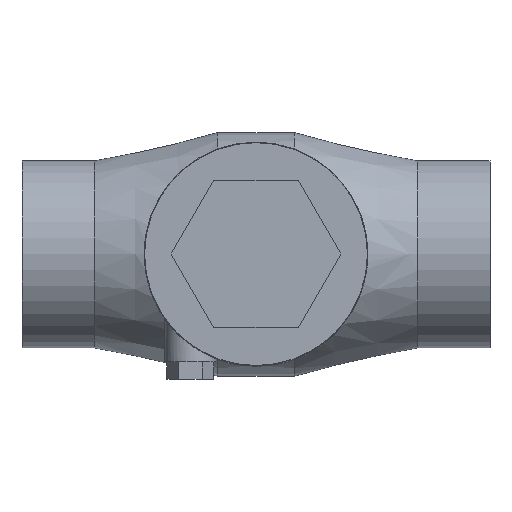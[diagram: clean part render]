
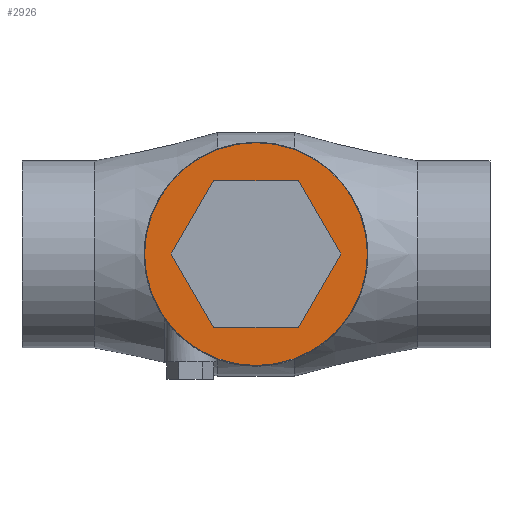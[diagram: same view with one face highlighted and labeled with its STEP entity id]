
A CAD part, top view. The second image highlights one B-rep face of the part: STEP entity #2926.
In plain terms, the highlighted planar face has unit normal (0, 0, 1).
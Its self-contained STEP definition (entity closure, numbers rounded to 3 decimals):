
#32 = PLANE('',#33);
#33 = AXIS2_PLACEMENT_3D('',#34,#35,#36);
#34 = CARTESIAN_POINT('',(2.265,-0.711,1.88));
#35 = DIRECTION('',(0.,-1.,0.));
#36 = DIRECTION('',(1.,0.,0.));
#57 = VERTEX_POINT('',#58);
#58 = CARTESIAN_POINT('',(1.855,-0.711,1.88));
#72 = PLANE('',#73);
#73 = AXIS2_PLACEMENT_3D('',#74,#75,#76);
#74 = CARTESIAN_POINT('',(1.649,-0.356,1.88));
#75 = DIRECTION('',(-0.866,-0.5,0.));
#76 = DIRECTION('',(0.5,-0.866,0.));
#84 = EDGE_CURVE('',#85,#57,#87,.T.);
#85 = VERTEX_POINT('',#86);
#86 = CARTESIAN_POINT('',(2.675,-0.711,1.88));
#87 = SURFACE_CURVE('',#88,(#92,#99),.PCURVE_S1.);
#88 = LINE('',#89,#90);
#89 = CARTESIAN_POINT('',(2.265,-0.711,1.88));
#90 = VECTOR('',#91,1.);
#91 = DIRECTION('',(-1.,0.,0.));
#92 = PCURVE('',#32,#93);
#93 = DEFINITIONAL_REPRESENTATION('',(#94),#98);
#94 = LINE('',#95,#96);
#95 = CARTESIAN_POINT('',(0.,0.));
#96 = VECTOR('',#97,1.);
#97 = DIRECTION('',(-1.,0.));
#98 = ( GEOMETRIC_REPRESENTATION_CONTEXT(2) 
PARAMETRIC_REPRESENTATION_CONTEXT() REPRESENTATION_CONTEXT('2D SPACE',''
  ) );
#99 = PCURVE('',#100,#105);
#100 = PLANE('',#101);
#101 = AXIS2_PLACEMENT_3D('',#102,#103,#104);
#102 = CARTESIAN_POINT('',(2.265,0.,1.88));
#103 = DIRECTION('',(0.,0.,1.));
#104 = DIRECTION('',(1.,0.,-0.));
#105 = DEFINITIONAL_REPRESENTATION('',(#106),#110);
#106 = LINE('',#107,#108);
#107 = CARTESIAN_POINT('',(0.,-0.711));
#108 = VECTOR('',#109,1.);
#109 = DIRECTION('',(-1.,0.));
#110 = ( GEOMETRIC_REPRESENTATION_CONTEXT(2) 
PARAMETRIC_REPRESENTATION_CONTEXT() REPRESENTATION_CONTEXT('2D SPACE',''
  ) );
#126 = PLANE('',#127);
#127 = AXIS2_PLACEMENT_3D('',#128,#129,#130);
#128 = CARTESIAN_POINT('',(2.881,-0.356,1.88));
#129 = DIRECTION('',(0.866,-0.5,0.));
#130 = DIRECTION('',(0.5,0.866,0.));
#165 = VERTEX_POINT('',#166);
#166 = CARTESIAN_POINT('',(1.444,0.,1.88));
#180 = PLANE('',#181);
#181 = AXIS2_PLACEMENT_3D('',#182,#183,#184);
#182 = CARTESIAN_POINT('',(1.649,0.356,1.88));
#183 = DIRECTION('',(-0.866,0.5,0.));
#184 = DIRECTION('',(-0.5,-0.866,0.));
#192 = EDGE_CURVE('',#57,#165,#193,.T.);
#193 = SURFACE_CURVE('',#194,(#198,#205),.PCURVE_S1.);
#194 = LINE('',#195,#196);
#195 = CARTESIAN_POINT('',(1.649,-0.356,1.88));
#196 = VECTOR('',#197,1.);
#197 = DIRECTION('',(-0.5,0.866,0.));
#198 = PCURVE('',#72,#199);
#199 = DEFINITIONAL_REPRESENTATION('',(#200),#204);
#200 = LINE('',#201,#202);
#201 = CARTESIAN_POINT('',(0.,0.));
#202 = VECTOR('',#203,1.);
#203 = DIRECTION('',(-1.,0.));
#204 = ( GEOMETRIC_REPRESENTATION_CONTEXT(2) 
PARAMETRIC_REPRESENTATION_CONTEXT() REPRESENTATION_CONTEXT('2D SPACE',''
  ) );
#205 = PCURVE('',#100,#206);
#206 = DEFINITIONAL_REPRESENTATION('',(#207),#211);
#207 = LINE('',#208,#209);
#208 = CARTESIAN_POINT('',(-0.616,-0.356));
#209 = VECTOR('',#210,1.);
#210 = DIRECTION('',(-0.5,0.866));
#211 = ( GEOMETRIC_REPRESENTATION_CONTEXT(2) 
PARAMETRIC_REPRESENTATION_CONTEXT() REPRESENTATION_CONTEXT('2D SPACE',''
  ) );
#241 = VERTEX_POINT('',#242);
#242 = CARTESIAN_POINT('',(1.855,0.711,1.88));
#256 = PLANE('',#257);
#257 = AXIS2_PLACEMENT_3D('',#258,#259,#260);
#258 = CARTESIAN_POINT('',(2.265,0.711,1.88));
#259 = DIRECTION('',(0.,1.,0.));
#260 = DIRECTION('',(-1.,0.,0.));
#268 = EDGE_CURVE('',#165,#241,#269,.T.);
#269 = SURFACE_CURVE('',#270,(#274,#281),.PCURVE_S1.);
#270 = LINE('',#271,#272);
#271 = CARTESIAN_POINT('',(1.649,0.356,1.88));
#272 = VECTOR('',#273,1.);
#273 = DIRECTION('',(0.5,0.866,0.));
#274 = PCURVE('',#180,#275);
#275 = DEFINITIONAL_REPRESENTATION('',(#276),#280);
#276 = LINE('',#277,#278);
#277 = CARTESIAN_POINT('',(0.,0.));
#278 = VECTOR('',#279,1.);
#279 = DIRECTION('',(-1.,0.));
#280 = ( GEOMETRIC_REPRESENTATION_CONTEXT(2) 
PARAMETRIC_REPRESENTATION_CONTEXT() REPRESENTATION_CONTEXT('2D SPACE',''
  ) );
#281 = PCURVE('',#100,#282);
#282 = DEFINITIONAL_REPRESENTATION('',(#283),#287);
#283 = LINE('',#284,#285);
#284 = CARTESIAN_POINT('',(-0.616,0.356));
#285 = VECTOR('',#286,1.);
#286 = DIRECTION('',(0.5,0.866));
#287 = ( GEOMETRIC_REPRESENTATION_CONTEXT(2) 
PARAMETRIC_REPRESENTATION_CONTEXT() REPRESENTATION_CONTEXT('2D SPACE',''
  ) );
#317 = VERTEX_POINT('',#318);
#318 = CARTESIAN_POINT('',(2.675,0.711,1.88));
#332 = PLANE('',#333);
#333 = AXIS2_PLACEMENT_3D('',#334,#335,#336);
#334 = CARTESIAN_POINT('',(2.881,0.356,1.88));
#335 = DIRECTION('',(0.866,0.5,0.));
#336 = DIRECTION('',(-0.5,0.866,0.));
#344 = EDGE_CURVE('',#241,#317,#345,.T.);
#345 = SURFACE_CURVE('',#346,(#350,#357),.PCURVE_S1.);
#346 = LINE('',#347,#348);
#347 = CARTESIAN_POINT('',(2.265,0.711,1.88));
#348 = VECTOR('',#349,1.);
#349 = DIRECTION('',(1.,0.,0.));
#350 = PCURVE('',#256,#351);
#351 = DEFINITIONAL_REPRESENTATION('',(#352),#356);
#352 = LINE('',#353,#354);
#353 = CARTESIAN_POINT('',(0.,0.));
#354 = VECTOR('',#355,1.);
#355 = DIRECTION('',(-1.,0.));
#356 = ( GEOMETRIC_REPRESENTATION_CONTEXT(2) 
PARAMETRIC_REPRESENTATION_CONTEXT() REPRESENTATION_CONTEXT('2D SPACE',''
  ) );
#357 = PCURVE('',#100,#358);
#358 = DEFINITIONAL_REPRESENTATION('',(#359),#363);
#359 = LINE('',#360,#361);
#360 = CARTESIAN_POINT('',(0.,0.711));
#361 = VECTOR('',#362,1.);
#362 = DIRECTION('',(1.,0.));
#363 = ( GEOMETRIC_REPRESENTATION_CONTEXT(2) 
PARAMETRIC_REPRESENTATION_CONTEXT() REPRESENTATION_CONTEXT('2D SPACE',''
  ) );
#393 = VERTEX_POINT('',#394);
#394 = CARTESIAN_POINT('',(3.086,0.,1.88));
#415 = EDGE_CURVE('',#317,#393,#416,.T.);
#416 = SURFACE_CURVE('',#417,(#421,#428),.PCURVE_S1.);
#417 = LINE('',#418,#419);
#418 = CARTESIAN_POINT('',(2.881,0.356,1.88));
#419 = VECTOR('',#420,1.);
#420 = DIRECTION('',(0.5,-0.866,0.));
#421 = PCURVE('',#332,#422);
#422 = DEFINITIONAL_REPRESENTATION('',(#423),#427);
#423 = LINE('',#424,#425);
#424 = CARTESIAN_POINT('',(0.,0.));
#425 = VECTOR('',#426,1.);
#426 = DIRECTION('',(-1.,0.));
#427 = ( GEOMETRIC_REPRESENTATION_CONTEXT(2) 
PARAMETRIC_REPRESENTATION_CONTEXT() REPRESENTATION_CONTEXT('2D SPACE',''
  ) );
#428 = PCURVE('',#100,#429);
#429 = DEFINITIONAL_REPRESENTATION('',(#430),#434);
#430 = LINE('',#431,#432);
#431 = CARTESIAN_POINT('',(0.616,0.356));
#432 = VECTOR('',#433,1.);
#433 = DIRECTION('',(0.5,-0.866));
#434 = ( GEOMETRIC_REPRESENTATION_CONTEXT(2) 
PARAMETRIC_REPRESENTATION_CONTEXT() REPRESENTATION_CONTEXT('2D SPACE',''
  ) );
#462 = EDGE_CURVE('',#393,#85,#463,.T.);
#463 = SURFACE_CURVE('',#464,(#468,#475),.PCURVE_S1.);
#464 = LINE('',#465,#466);
#465 = CARTESIAN_POINT('',(2.881,-0.356,1.88));
#466 = VECTOR('',#467,1.);
#467 = DIRECTION('',(-0.5,-0.866,0.));
#468 = PCURVE('',#126,#469);
#469 = DEFINITIONAL_REPRESENTATION('',(#470),#474);
#470 = LINE('',#471,#472);
#471 = CARTESIAN_POINT('',(0.,0.));
#472 = VECTOR('',#473,1.);
#473 = DIRECTION('',(-1.,0.));
#474 = ( GEOMETRIC_REPRESENTATION_CONTEXT(2) 
PARAMETRIC_REPRESENTATION_CONTEXT() REPRESENTATION_CONTEXT('2D SPACE',''
  ) );
#475 = PCURVE('',#100,#476);
#476 = DEFINITIONAL_REPRESENTATION('',(#477),#481);
#477 = LINE('',#478,#479);
#478 = CARTESIAN_POINT('',(0.616,-0.356));
#479 = VECTOR('',#480,1.);
#480 = DIRECTION('',(-0.5,-0.866));
#481 = ( GEOMETRIC_REPRESENTATION_CONTEXT(2) 
PARAMETRIC_REPRESENTATION_CONTEXT() REPRESENTATION_CONTEXT('2D SPACE',''
  ) );
#2539 = CYLINDRICAL_SURFACE('',#2540,1.079);
#2540 = AXIS2_PLACEMENT_3D('',#2541,#2542,#2543);
#2541 = CARTESIAN_POINT('',(2.265,0.,1.735));
#2542 = DIRECTION('',(0.,0.,1.));
#2543 = DIRECTION('',(1.,0.,-0.));
#2877 = EDGE_CURVE('',#2878,#2878,#2880,.T.);
#2878 = VERTEX_POINT('',#2879);
#2879 = CARTESIAN_POINT('',(3.344,0.,1.88));
#2880 = SURFACE_CURVE('',#2881,(#2886,#2893),.PCURVE_S1.);
#2881 = CIRCLE('',#2882,1.079);
#2882 = AXIS2_PLACEMENT_3D('',#2883,#2884,#2885);
#2883 = CARTESIAN_POINT('',(2.265,0.,1.88));
#2884 = DIRECTION('',(0.,0.,-1.));
#2885 = DIRECTION('',(1.,0.,0.));
#2886 = PCURVE('',#2539,#2887);
#2887 = DEFINITIONAL_REPRESENTATION('',(#2888),#2892);
#2888 = LINE('',#2889,#2890);
#2889 = CARTESIAN_POINT('',(6.283,0.145));
#2890 = VECTOR('',#2891,1.);
#2891 = DIRECTION('',(-1.,0.));
#2892 = ( GEOMETRIC_REPRESENTATION_CONTEXT(2) 
PARAMETRIC_REPRESENTATION_CONTEXT() REPRESENTATION_CONTEXT('2D SPACE',''
  ) );
#2893 = PCURVE('',#100,#2894);
#2894 = DEFINITIONAL_REPRESENTATION('',(#2895),#2903);
#2895 = ( BOUNDED_CURVE() B_SPLINE_CURVE(2,(#2896,#2897,#2898,#2899,
#2900,#2901,#2902),.UNSPECIFIED.,.T.,.F.) B_SPLINE_CURVE_WITH_KNOTS((1,2
    ,2,2,2,1),(-2.094,0.,2.094,4.189,
6.283,8.378),.UNSPECIFIED.) CURVE() 
GEOMETRIC_REPRESENTATION_ITEM() RATIONAL_B_SPLINE_CURVE((1.,0.5,1.,0.5,
1.,0.5,1.)) REPRESENTATION_ITEM('') );
#2896 = CARTESIAN_POINT('',(1.079,0.));
#2897 = CARTESIAN_POINT('',(1.079,-1.868));
#2898 = CARTESIAN_POINT('',(-0.539,-0.934));
#2899 = CARTESIAN_POINT('',(-2.157,0.));
#2900 = CARTESIAN_POINT('',(-0.539,0.934));
#2901 = CARTESIAN_POINT('',(1.079,1.868));
#2902 = CARTESIAN_POINT('',(1.079,0.));
#2903 = ( GEOMETRIC_REPRESENTATION_CONTEXT(2) 
PARAMETRIC_REPRESENTATION_CONTEXT() REPRESENTATION_CONTEXT('2D SPACE',''
  ) );
#2926 = ADVANCED_FACE('',(#2927,#2935),#100,.T.);
#2927 = FACE_BOUND('',#2928,.T.);
#2928 = EDGE_LOOP('',(#2929,#2930,#2931,#2932,#2933,#2934));
#2929 = ORIENTED_EDGE('',*,*,#84,.T.);
#2930 = ORIENTED_EDGE('',*,*,#192,.T.);
#2931 = ORIENTED_EDGE('',*,*,#268,.T.);
#2932 = ORIENTED_EDGE('',*,*,#344,.T.);
#2933 = ORIENTED_EDGE('',*,*,#415,.T.);
#2934 = ORIENTED_EDGE('',*,*,#462,.T.);
#2935 = FACE_BOUND('',#2936,.T.);
#2936 = EDGE_LOOP('',(#2937));
#2937 = ORIENTED_EDGE('',*,*,#2877,.F.);
